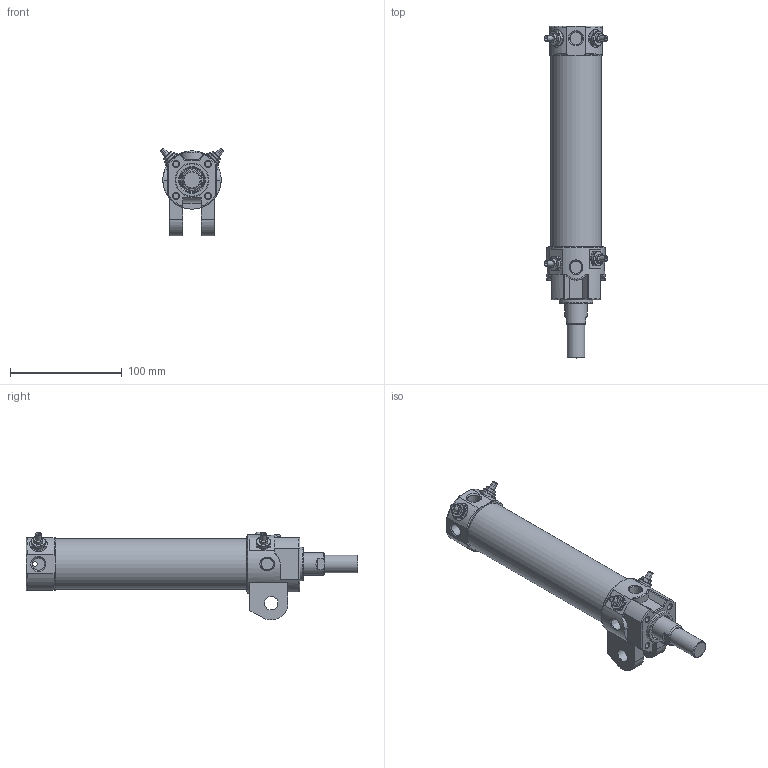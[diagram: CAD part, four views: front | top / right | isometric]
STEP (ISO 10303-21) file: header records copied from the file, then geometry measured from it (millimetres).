
FILE_DESCRIPTION((''),'2;1');
FILE_NAME('I:\3D電子目錄\氣缸\DCK\DCK\DCK-1A-40x125.stp','2008-02-25T15:52:35',('Administrator'),(''),'Autodesk Inventor 11','Autodesk Inventor 11','');
FILE_SCHEMA(('AUTOMOTIVE_DESIGN { 1 0 10303 214 1 1 1 1 }'));
Length unit declared in the file: millimetre
Products named in the file (1): DCK-1A-40x100
Bounding box: 57.13 x 296.5 x 78.56 mm (x, y, z)
Volume: 207364.5 mm3; surface area: 99470.4 mm2
Topology: 11 solids, 11 shells, 524 faces, 1220 edges, 764 vertices
Faces by surface type: bspline 161, plane 148, cylinder 127, cone 59, torus 27, sphere 2
Full cylindrical faces by diameter (mm): 2 x1, 3 x3, 3.8 x2, 4 x4, 4.6 x2, 5 x6, 5.1 x4, 5.2 x2, 7 x1, 7.25 x1, 8 x2, 8.3 x1, 10 x2, 12 x2, 12.8 x2, 16 x2, 20 x1, 21 x1, 22 x3, 23 x1, 24.7 x1, 26 x1, 28 x1, 29 x1, 30 x1, 33 x1, 40 x1, 42 x2, 45 x1, 52 x1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
Entity records: 26560 total; most frequent: CARTESIAN_POINT 16312, ORIENTED_EDGE 2104, DIRECTION 1851, EDGE_CURVE 1052, AXIS2_PLACEMENT_3D 764, EDGE_LOOP 730, VERTEX_POINT 724, FACE_OUTER_BOUND 522
